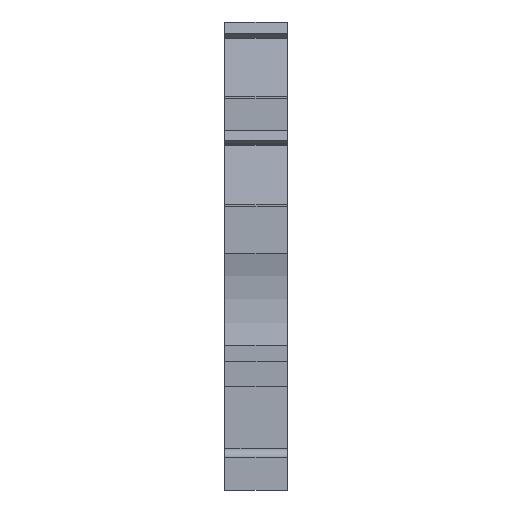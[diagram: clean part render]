
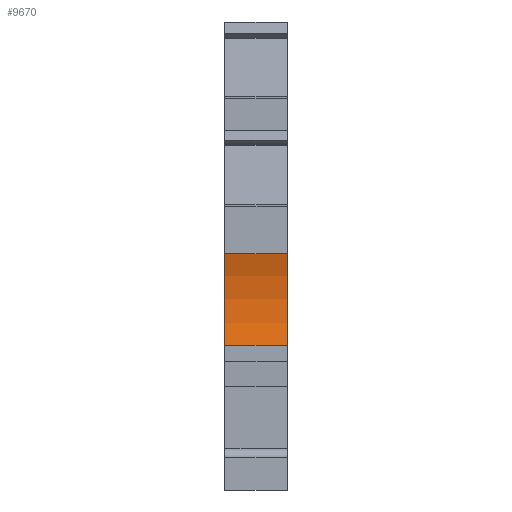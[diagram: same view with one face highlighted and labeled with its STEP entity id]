
A CAD part, front view. The second image highlights one B-rep face of the part: STEP entity #9670.
In plain terms, the highlighted cylindrical face has radius 15 mm (diameter 30 mm), a partial arc.
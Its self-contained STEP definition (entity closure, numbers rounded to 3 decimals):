
#112=CARTESIAN_POINT('',(0.,0.,14.25));
#113=VERTEX_POINT('',#112);
#120=CARTESIAN_POINT('',(0.,0.,23.25));
#121=VERTEX_POINT('',#120);
#122=CARTESIAN_POINT('',(0.,-14.309,18.75));
#123=DIRECTION('',(1.,-0.,0.));
#124=DIRECTION('',(-0.,-0.,1.));
#125=AXIS2_PLACEMENT_3D('',#122,#123,#124);
#126=CIRCLE('',#125,15.);
#127=EDGE_CURVE('',#113,#121,#126,.T.);
#9448=CARTESIAN_POINT('',(6.15,0.,23.25));
#9449=VERTEX_POINT('',#9448);
#9456=CARTESIAN_POINT('',(6.15,0.,14.25));
#9457=VERTEX_POINT('',#9456);
#9458=CARTESIAN_POINT('',(6.15,-14.309,18.75));
#9459=DIRECTION('',(1.,-0.,0.));
#9460=DIRECTION('',(-0.,-0.,1.));
#9461=AXIS2_PLACEMENT_3D('',#9458,#9459,#9460);
#9462=CIRCLE('',#9461,15.);
#9463=EDGE_CURVE('',#9457,#9449,#9462,.T.);
#9644=CARTESIAN_POINT('',(6.15,0.,23.25));
#9645=DIRECTION('',(-1.,0.,-0.));
#9646=VECTOR('',#9645,6.15);
#9647=LINE('',#9644,#9646);
#9648=EDGE_CURVE('',#9449,#121,#9647,.T.);
#9654=CARTESIAN_POINT('',(6.15,-14.309,18.75));
#9655=DIRECTION('',(1.,-0.,0.));
#9656=DIRECTION('',(-0.,-0.,1.));
#9657=AXIS2_PLACEMENT_3D('',#9654,#9655,#9656);
#9658=CYLINDRICAL_SURFACE('',#9657,15.);
#9659=ORIENTED_EDGE('',*,*,#9648,.T.);
#9660=ORIENTED_EDGE('',*,*,#127,.F.);
#9661=CARTESIAN_POINT('',(6.15,0.,14.25));
#9662=DIRECTION('',(-1.,0.,-0.));
#9663=VECTOR('',#9662,6.15);
#9664=LINE('',#9661,#9663);
#9665=EDGE_CURVE('',#9457,#113,#9664,.T.);
#9666=ORIENTED_EDGE('',*,*,#9665,.F.);
#9667=ORIENTED_EDGE('',*,*,#9463,.T.);
#9668=EDGE_LOOP('',(#9659,#9660,#9666,#9667));
#9669=FACE_BOUND('',#9668,.T.);
#9670=ADVANCED_FACE('',(#9669),#9658,.F.);
